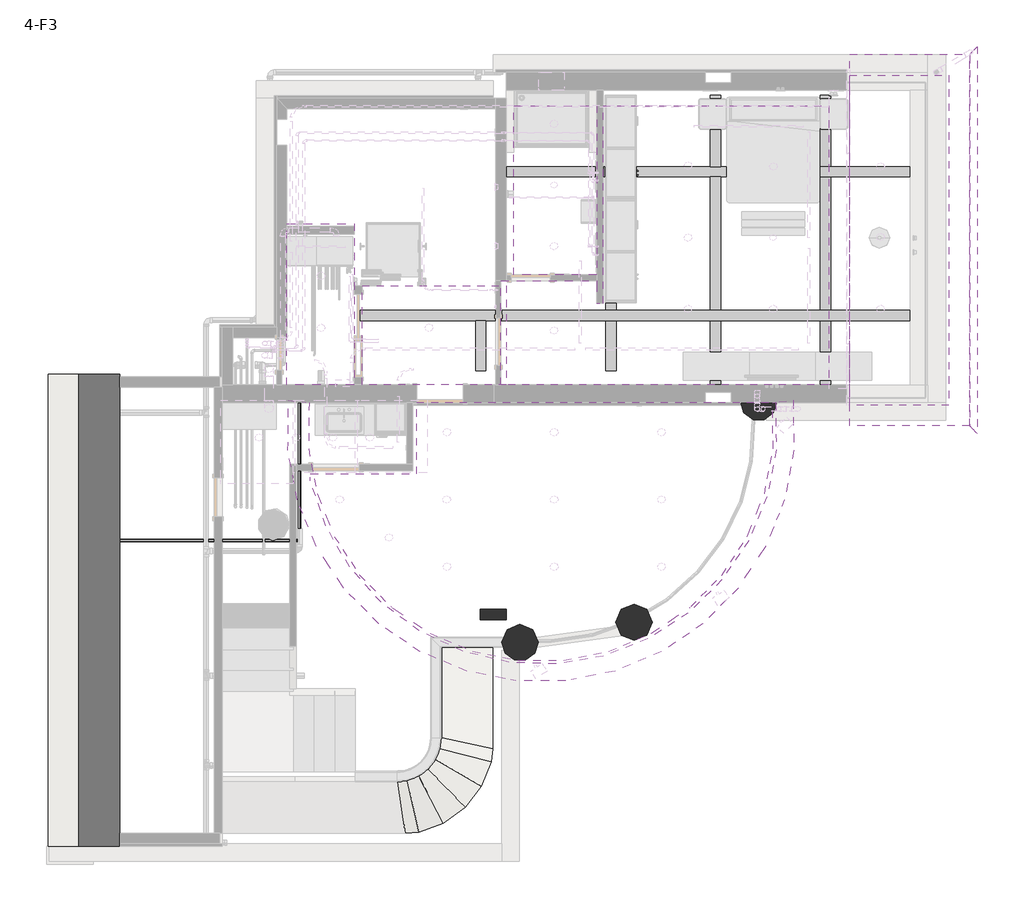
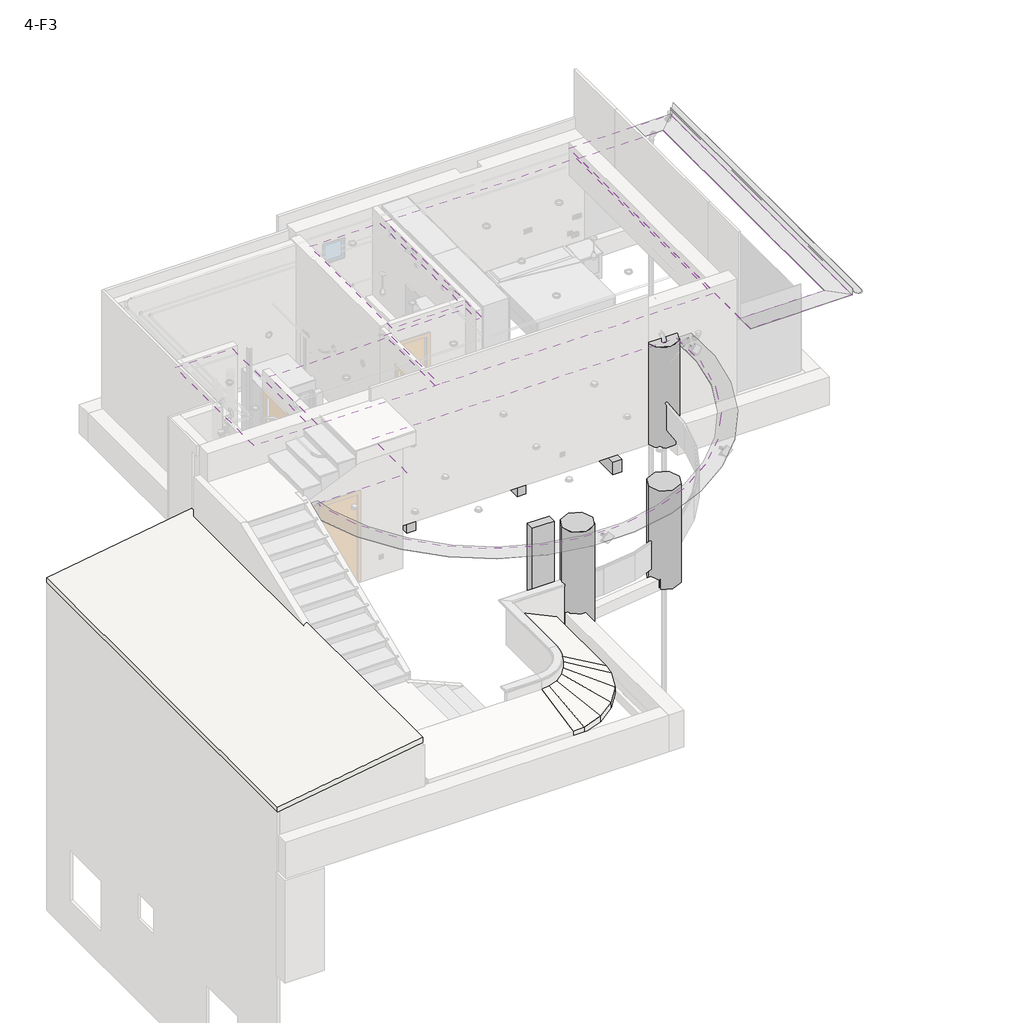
# One storey, part 3 of 11: 9 beams, 6 coverings, 4 columns, 4 roofs, 2 pipe segments.
"""IFC4 building model written with IfcOpenShell, lengths in millimetres."""

from ifc_helpers import new_model, si_unit, point, frame, frame_2d, origin, place, context, project, spatial, polyline, circle_curve, ellipse_curve, trimmed, segment, composite_curve, outline, extrude, faceted_brep, transform, mapped, element, save
from ifc_brep_helpers import plane_surface, cylinder_surface, revolved_surface, advanced_brep
from components import l51x51x3_2_2fe3ea8e, mt50x4_45_f827323b, mt50x4_45_f3ec78d8

model = new_model("IFC4")

# Units and contexts
model_context = context("Model", 3, world=origin())
ifc_project = project(units=[si_unit("LENGTHUNIT", "METRE", prefix="MILLI")], contexts=[model_context])

# Site, building, storey
site = spatial("IfcSite", under=ifc_project)
building = spatial("IfcBuilding", under=site)
storey = spatial("IfcBuildingStorey", under=building, Name="4-F3", Elevation=9900.0)

# Beams
placement = place(None, origin())
l51x51x3_2_shape = l51x51x3_2_2fe3ea8e(model_context)
element("IfcBeam", 1, ObjectType="M_L-Angle : L51X51X3.2", at=placement, inside=storey, context=model_context, shape_type="MappedRepresentation", body=[
    mapped(l51x51x3_2_shape, transform((-6771.4205017, 159.9675439, 9513.6), x_axis=(1.0, 0.0, 0.0), y_axis=(0.0, -1.0, 0.0), z_axis=(0.0, 0.0, -1.0))),
])
mt50x4_45_shape = mt50x4_45_f827323b(model_context)
element("IfcBeam", 2, ObjectType="M_MT-Structural Tee : MT50X4.45", at=placement, inside=storey, context=model_context, shape_type="MappedRepresentation", body=[
    mapped(mt50x4_45_shape, transform((-4615.6761339, 1570.7556118, 9573.35), x_axis=(0.0, -1.0, 0.0), y_axis=(0.0, 0.0, -1.0), z_axis=(1.0, 0.0, 0.0))),
])
mt50x4_45_2_shape = mt50x4_45_f3ec78d8(model_context)
element("IfcBeam", 3, ObjectType="M_MT-Structural Tee : MT50X4.45", at=placement, inside=storey, context=model_context, shape_type="MappedRepresentation", body=[
    mapped(mt50x4_45_2_shape, transform((-8928.2927447, 1570.7556118, 9573.35), x_axis=(0.0, -1.0, 0.0), y_axis=(0.0, 0.0, 1.0), z_axis=(-1.0, 0.0, 0.0))),
])
element("IfcBeam", 4, ObjectType="M_Concrete-Rectangular Beam : 200 x 300mm", at=placement, inside=storey, context=model_context, shape_type="Brep", body=[
    faceted_brep([(-622.6765921, 7185.2358549, 9450.0), (-622.6765921, 7385.2358549, 9450.0), (-622.6765921, 7385.2358549, 9150.0), (-622.6765921, 7185.2358549, 9150.0), (7235.5234079, 7185.2358549, 9450.0), (7235.5234079, 7185.2358549, 9150.0), (7235.5234079, 7385.2358549, 9150.0), (7235.5234079, 7385.2358549, 9450.0), (1292.3848417, 7185.2358549, 9450.0), (1492.3848417, 7185.2358549, 9450.0), (3312.3848417, 7185.2358549, 9450.0), (3512.3848417, 7185.2358549, 9450.0), (5432.3848417, 7185.2358549, 9450.0), (5632.3848417, 7185.2358549, 9450.0), (5632.3848417, 7385.2358549, 9450.0), (5432.3848417, 7385.2358549, 9450.0), (3512.3848417, 7385.2358549, 9450.0), (3312.3848417, 7385.2358549, 9450.0), (1492.3848417, 7385.2358549, 9450.0), (1292.3848417, 7385.2358549, 9450.0), (5632.3848417, 7385.2358549, 9150.0), (5432.3848417, 7385.2358549, 9150.0), (3512.3848417, 7385.2358549, 9150.0), (3312.3848417, 7385.2358549, 9150.0), (1492.3848417, 7385.2358549, 9150.0), (1292.3848417, 7385.2358549, 9150.0), (5632.3848417, 7185.2358549, 9150.0), (5432.3848417, 7185.2358549, 9150.0), (3512.3848417, 7185.2358549, 9150.0), (3312.3848417, 7185.2358549, 9150.0), (1492.3848417, 7185.2358549, 9150.0), (1292.3848417, 7185.2358549, 9150.0)], [[[0, 1, 2, 3]], [[4, 5, 6, 7]], [[1, 0, 8, 9, 10, 11, 12, 13, 4, 7, 14, 15, 16, 17, 18, 19]], [[2, 1, 19, 18, 17, 16, 15, 14, 7, 6, 20, 21, 22, 23, 24, 25]], [[3, 2, 25, 24, 23, 22, 21, 20, 6, 5, 26, 27, 28, 29, 30, 31]], [[0, 3, 31, 30, 29, 28, 27, 26, 5, 4, 13, 12, 11, 10, 9, 8]]]),
])
element("IfcBeam", 5, ObjectType="M_Concrete-Rectangular Beam : 200 x 300mm", at=placement, inside=storey, context=model_context, shape_type="Brep", body=[
    faceted_brep([(-3444.4765921, 4410.6486583, 9450.0), (-3444.4765921, 4610.6486583, 9450.0), (-3444.4765921, 4610.6486583, 9150.0), (-3444.4765921, 4410.6486583, 9150.0), (7235.5234079, 4410.6486583, 9450.0), (7235.5234079, 4410.6486583, 9150.0), (7235.5234079, 4610.6486583, 9150.0), (7235.5234079, 4610.6486583, 9450.0), (-1217.6151583, 4410.6486583, 9450.0), (-1017.6151583, 4410.6486583, 9450.0), (1292.3848417, 4410.6486583, 9450.0), (1492.3848417, 4410.6486583, 9450.0), (3312.3848417, 4410.6486583, 9450.0), (3512.3848417, 4410.6486583, 9450.0), (5432.3848417, 4410.6486583, 9450.0), (5632.3848417, 4410.6486583, 9450.0), (5632.3848417, 4610.6486583, 9450.0), (5432.3848417, 4610.6486583, 9450.0), (3512.3848417, 4610.6486583, 9450.0), (3312.3848417, 4610.6486583, 9450.0), (1492.3848417, 4610.6486583, 9450.0), (1292.3848417, 4610.6486583, 9450.0), (5632.3848417, 4610.6486583, 9150.0), (5432.3848417, 4610.6486583, 9150.0), (3512.3848417, 4610.6486583, 9150.0), (3312.3848417, 4610.6486583, 9150.0), (1492.3848417, 4610.6486583, 9150.0), (1292.3848417, 4610.6486583, 9150.0), (5632.3848417, 4410.6486583, 9150.0), (5432.3848417, 4410.6486583, 9150.0), (3512.3848417, 4410.6486583, 9150.0), (3312.3848417, 4410.6486583, 9150.0), (1492.3848417, 4410.6486583, 9150.0), (1292.3848417, 4410.6486583, 9150.0), (-1017.6151583, 4410.6486583, 9150.0), (-1217.6151583, 4410.6486583, 9150.0)], [[[0, 1, 2, 3]], [[4, 5, 6, 7]], [[1, 0, 8, 9, 10, 11, 12, 13, 14, 15, 4, 7, 16, 17, 18, 19, 20, 21]], [[2, 1, 21, 20, 19, 18, 17, 16, 7, 6, 22, 23, 24, 25, 26, 27]], [[3, 2, 27, 26, 25, 24, 23, 22, 6, 5, 28, 29, 30, 31, 32, 33, 34, 35]], [[0, 3, 35, 34, 33, 32, 31, 30, 29, 28, 5, 4, 15, 14, 13, 12, 11, 10, 9, 8]]]),
])
element("IfcBeam", 6, ObjectType="M_Concrete-Rectangular Beam : 200 x 300mm", at=placement, inside=storey, context=model_context, shape_type="SweptSolid", body=[
    extrude(outline(polyline([(1292.3848417, 8761.6620874), (1492.3848417, 8761.6620874), (1492.3848417, 7385.2358549), (1292.3848417, 7385.2358549), (1292.3848417, 8761.6620874)])), frame((0.0, 0.0, 9150.0), z_axis=(0.0, 0.0, 1.0), x_axis=(1.0, 0.0, 0.0)), (0.0, 0.0, 1.0), 300.0),
    extrude(outline(polyline([(1492.3848417, 3442.6176449), (1292.3848417, 3442.6176449), (1292.3848417, 4410.6486583), (1492.3848417, 4410.6486583), (1492.3848417, 3442.6176449)])), frame((0.0, 0.0, 9150.0), z_axis=(0.0, 0.0, 1.0), x_axis=(1.0, 0.0, 0.0)), (0.0, 0.0, 1.0), 300.0),
    extrude(outline(polyline([(1492.3848417, 4610.6486583), (1292.3848417, 4610.6486583), (1292.3848417, 7185.2358549), (1492.3848417, 7185.2358549), (1492.3848417, 4610.6486583)])), frame((0.0, 0.0, 9150.0), z_axis=(0.0, 0.0, 1.0), x_axis=(1.0, 0.0, 0.0)), (0.0, 0.0, 1.0), 300.0),
])
element("IfcBeam", 7, ObjectType="M_Concrete-Rectangular Beam : 200 x 300mm", at=placement, inside=storey, context=model_context, shape_type="SweptSolid", body=[
    extrude(outline(polyline([(3312.3848417, 8761.6620874), (3512.3848417, 8761.6620874), (3512.3848417, 7385.2358549), (3312.3848417, 7385.2358549), (3312.3848417, 8761.6620874)])), frame((0.0, 0.0, 9150.0), z_axis=(0.0, 0.0, 1.0), x_axis=(1.0, 0.0, 0.0)), (0.0, 0.0, 1.0), 300.0),
    extrude(outline(polyline([(3512.3848417, 3161.6620874), (3312.3848417, 3161.6620874), (3312.3848417, 4410.6486583), (3512.3848417, 4410.6486583), (3512.3848417, 3161.6620874)])), frame((0.0, 0.0, 9150.0), z_axis=(0.0, 0.0, 1.0), x_axis=(1.0, 0.0, 0.0)), (0.0, 0.0, 1.0), 300.0),
    extrude(outline(polyline([(3512.3848417, 4610.6486583), (3312.3848417, 4610.6486583), (3312.3848417, 7185.2358549), (3512.3848417, 7185.2358549), (3512.3848417, 4610.6486583)])), frame((0.0, 0.0, 9150.0), z_axis=(0.0, 0.0, 1.0), x_axis=(1.0, 0.0, 0.0)), (0.0, 0.0, 1.0), 300.0),
])
element("IfcBeam", 8, ObjectType="M_Concrete-Rectangular Beam : 200 x 300mm", at=placement, inside=storey, context=model_context, shape_type="SweptSolid", body=[
    extrude(outline(polyline([(5432.3848417, 8761.6620874), (5632.3848417, 8761.6620874), (5632.3848417, 7385.2358549), (5432.3848417, 7385.2358549), (5432.3848417, 8761.6620874)])), frame((0.0, 0.0, 9150.0), z_axis=(0.0, 0.0, 1.0), x_axis=(1.0, 0.0, 0.0)), (0.0, 0.0, 1.0), 300.0),
    extrude(outline(polyline([(5632.3848417, 3170.7214801), (5432.3848417, 3170.7214801), (5432.3848417, 4410.6486583), (5632.3848417, 4410.6486583), (5632.3848417, 3170.7214801)])), frame((0.0, 0.0, 9150.0), z_axis=(0.0, 0.0, 1.0), x_axis=(1.0, 0.0, 0.0)), (0.0, 0.0, 1.0), 300.0),
    extrude(outline(polyline([(5432.3848417, 7185.2358549), (5632.3848417, 7185.2358549), (5632.3848417, 4610.6486583), (5432.3848417, 4610.6486583), (5432.3848417, 7185.2358549)])), frame((0.0, 0.0, 9150.0), z_axis=(0.0, 0.0, 1.0), x_axis=(1.0, 0.0, 0.0)), (0.0, 0.0, 1.0), 300.0),
])
element("IfcBeam", 9, ObjectType="M_Concrete-Rectangular Beam : 200 x 300mm", at=placement, inside=storey, context=model_context, shape_type="SweptSolid", body=[
    extrude(outline(polyline([(-1017.6151583, 3442.6176449), (-1217.6151583, 3442.6176449), (-1217.6151583, 4410.6486583), (-1017.6151583, 4410.6486583), (-1017.6151583, 3442.6176449)])), frame((0.0, 0.0, 9150.0), z_axis=(0.0, 0.0, 1.0), x_axis=(1.0, 0.0, 0.0)), (0.0, 0.0, 1.0), 300.0),
])

# Columns
element("IfcColumn", 10, ObjectType="M_Concrete-Rectangular-Column : 200 x500mm", at=placement, inside=storey, context=model_context, shape_type="SweptSolid", body=[
    extrude(outline(polyline([(-1127.3482991, -1357.1632352), (-1127.3482991, -1157.1632352), (-627.3482991, -1157.1632352), (-627.3482991, -1357.1632352), (-1127.3482991, -1357.1632352)])), frame((0.0, 0.0, 9950.0), z_axis=(0.0, 0.0, 1.0), x_axis=(1.0, 0.0, 0.0)), (0.0, 0.0, 1.0), 2200.0),
])
element("IfcColumn", 11, ObjectType="M_Concrete-Round-Column : 700mm", at=placement, inside=storey, context=model_context, shape_type="AdvancedBrep", body=[
    advanced_brep(
    [(2191.661449, -1407.3470383, 9900.0), (1607.691221, -1667.6505773, 9900.0), (2191.0757881, -1387.1079771, 9900.0), (2191.661449, -1407.3470383, 12274.1743241), (1491.661449, -1407.3470383, 12274.1743241), (1491.661449, -1407.3470383, 9950.0), (1607.691221, -1667.6505773, 9950.0), (2191.0757881, -1387.1079771, 9950.0)],
    [
        (0, 1, circle_curve(frame((1841.661449, -1407.3470383, 9900.0), z_axis=(0.0, 0.0, -1.0), x_axis=(-1.0, 0.0, 0.0)), 350.0)),
        (1, 2, circle_curve(frame((41.3341283, 2336.4094323, 9900.0), z_axis=(0.0, 0.0, 1.0), x_axis=(1.0, 0.0, 0.0)), 4299.531498)),
        (2, 0, circle_curve(frame((1841.661449, -1407.3470383, 9900.0), z_axis=(0.0, 0.0, -1.0), x_axis=(-1.0, 0.0, 0.0)), 350.0)),
        (3, 4, circle_curve(frame((1841.661449, -1407.3470383, 12274.1743241), z_axis=(0.0, 0.0, 1.0), x_axis=(-1.0, 0.0, 0.0)), 350.0)),
        (4, 3, circle_curve(frame((1841.661449, -1407.3470383, 12274.1743241), z_axis=(0.0, 0.0, 1.0), x_axis=(-1.0, 0.0, 0.0)), 350.0)),
        (4, 5),
        (5, 6, circle_curve(frame((1841.661449, -1407.3470383, 9950.0), z_axis=(0.0, 0.0, 1.0), x_axis=(-1.0, 0.0, 0.0)), 350.0)),
        (6, 1),
        (0, 3),
        (2, 7),
        (7, 5, circle_curve(frame((1841.661449, -1407.3470383, 9950.0), z_axis=(0.0, 0.0, 1.0), x_axis=(-1.0, 0.0, 0.0)), 350.0)),
        (7, 6, circle_curve(frame((41.3341283, 2336.4094323, 9950.0), z_axis=(0.0, 0.0, -1.0), x_axis=(1.0, 0.0, 0.0)), 4299.531498)),
    ],
    [
        plane_surface(frame((1491.661449, -1407.3470383, 9900.0), z_axis=(0.0, 0.0, -1.0), x_axis=(0.0, 1.0, 0.0))),
        plane_surface(frame((1491.661449, -1407.3470383, 12274.1743241), z_axis=(0.0, 0.0, 1.0), x_axis=(0.0, -1.0, 0.0))),
        cylinder_surface(frame((1841.661449, -1407.3470383, 9900.0), z_axis=(0.0, 0.0, 1.0), x_axis=(-1.0, 0.0, 0.0)), 350.0),
        plane_surface(frame((-6107.4765921, 4642.9313171, 9950.0), z_axis=(0.0, 0.0, -1.0), x_axis=(0.0, -1.0, 0.0))),
        revolved_surface(polyline([(4340.8656263, 2336.4094323, 9900.0), (4340.8656263, 2336.4094323, 9950.0)]), (41.3341283, 2336.4094323, 9950.0), (0.0, 0.0, -1.0)),
    ],
    [
        (0, [[1, 2, 3]]),
        (1, [[4, 5]]),
        (2, [[-5, 6, 7, 8, -1, 9]]),
        (2, [[-4, -9, -3, 10, 11, -6]]),
        (3, [[12, -7, -11]]),
        (4, [[-12, -10, -2, -8]]),
    ],
),
])
element("IfcColumn", 12, ObjectType="M_Concrete-Round-Column : 700mm", at=placement, inside=storey, context=model_context, shape_type="AdvancedBrep", body=[
    advanced_brep(
    [(-53.5545328, -1962.0748638, 9900.0), (-627.4765921, -2024.64125, 9900.0), (-627.4765921, -1910.7853269, 9900.0), (-11.9654842, -1796.5977201, 12295.1854885), (-711.9654842, -1796.5977201, 12295.1854885), (-711.9654842, -1796.5977201, 9950.0), (-627.4765921, -2024.64125, 9950.0), (-53.5545328, -1962.0748638, 9950.0), (-11.9654842, -1796.5977201, 9950.0), (-627.4765921, -1910.7853269, 9950.0)],
    [
        (0, 1, circle_curve(frame((-361.9654842, -1796.5977201, 9900.0), z_axis=(0.0, 0.0, -1.0), x_axis=(1.0, 0.0, 0.0)), 350.0)),
        (1, 2),
        (2, 0, circle_curve(frame((41.3341283, 2336.4094323, 9900.0), z_axis=(0.0, 0.0, 1.0), x_axis=(1.0, 0.0, 0.0)), 4299.531498)),
        (3, 4, circle_curve(frame((-361.9654842, -1796.5977201, 12295.1854885), z_axis=(0.0, 0.0, 1.0), x_axis=(1.0, 0.0, 0.0)), 350.0)),
        (4, 3, circle_curve(frame((-361.9654842, -1796.5977201, 12295.1854885), z_axis=(0.0, 0.0, 1.0), x_axis=(1.0, 0.0, 0.0)), 350.0)),
        (4, 5),
        (5, 6, circle_curve(frame((-361.9654842, -1796.5977201, 9950.0), z_axis=(0.0, 0.0, 1.0), x_axis=(1.0, 0.0, 0.0)), 350.0)),
        (6, 1),
        (0, 7),
        (7, 8, circle_curve(frame((-361.9654842, -1796.5977201, 9950.0), z_axis=(0.0, 0.0, 1.0), x_axis=(1.0, 0.0, 0.0)), 350.0)),
        (8, 3),
        (8, 5, circle_curve(frame((-361.9654842, -1796.5977201, 9950.0), z_axis=(0.0, 0.0, 1.0), x_axis=(1.0, 0.0, 0.0)), 350.0)),
        (7, 9, circle_curve(frame((41.3341283, 2336.4094323, 9950.0), z_axis=(0.0, 0.0, -1.0), x_axis=(1.0, 0.0, 0.0)), 4299.531498)),
        (9, 6),
        (9, 2),
    ],
    [
        plane_surface(frame((-11.9654842, -1796.5977201, 9900.0), z_axis=(0.0, 0.0, -1.0), x_axis=(0.0, 1.0, 0.0))),
        plane_surface(frame((-11.9654842, -1796.5977201, 12295.1854885), z_axis=(0.0, 0.0, 1.0), x_axis=(0.0, -1.0, 0.0))),
        cylinder_surface(frame((-361.9654842, -1796.5977201, 9900.0), z_axis=(0.0, 0.0, 1.0), x_axis=(1.0, 0.0, 0.0)), 350.0),
        plane_surface(frame((-6107.4765921, 4642.9313171, 9950.0), z_axis=(0.0, 0.0, -1.0), x_axis=(0.0, -1.0, 0.0))),
        plane_surface(frame((-627.4765921, -1910.7853269, 9650.0), z_axis=(-1.0, 0.0, 0.0), x_axis=(0.0, 0.0, 1.0))),
        revolved_surface(polyline([(4340.8656263, 2336.4094323, 9900.0), (4340.8656263, 2336.4094323, 9950.0)]), (41.3341283, 2336.4094323, 9950.0), (0.0, 0.0, -1.0)),
    ],
    [
        (0, [[1, 2, 3]]),
        (1, [[4, 5]]),
        (2, [[-5, 6, 7, 8, -1, 9, 10, 11]]),
        (2, [[-4, -11, 12, -6]]),
        (3, [[13, 14, -7, -12, -10]]),
        (4, [[-14, 15, -2, -8]]),
        (5, [[-13, -9, -3, -15]]),
    ],
),
])
element("IfcColumn", 13, ObjectType="half circle : half circle", at=placement, inside=storey, context=model_context, shape_type="SweptSolid", body=[
    extrude(outline(composite_curve([segment(trimmed(circle_curve(frame_2d((4244.5316629, 2836.4863231)), 350.0), [point((4594.5316629, 2836.4863231))], [point((3894.5316629, 2836.4863231))], False, "CARTESIAN"), True, "CONTINUOUS"), segment(polyline([(3894.5316629, 2836.4863231), (4594.5316629, 2836.4863231)]), True, "CONTINUOUS")], self_intersect=False)), frame((0.0, 0.0, 9900.0), z_axis=(0.0, 0.0, 1.0), x_axis=(1.0, 0.0, 0.0)), (0.0, 0.0, 1.0), 2419.8197025),
])

# Coverings
element("IfcCovering", 14, ObjectType="Plain", at=placement, inside=storey, context=model_context, shape_type="SweptSolid", body=[
    extrude(outline(polyline([(7916.946068, 2780.5529852), (5997.8774898, 2780.5529852), (5997.8774898, 9151.6323432), (7916.946068, 9151.6323432), (7916.946068, 2780.5529852)]), holes=[composite_curve([segment(trimmed(circle_curve(frame_2d((6599.2004488, 7387.4708382)), 75.0), [point((6524.2004488, 7387.4708382))], [point((6674.2004488, 7387.4708382))], True, "CARTESIAN"), True, "CONTINUOUS"), segment(trimmed(circle_curve(frame_2d((6599.2004488, 7387.4708382)), 75.0), [point((6674.2004488, 7387.4708382))], [point((6524.2004488, 7387.4708382))], True, "CARTESIAN"), True, "CONTINUOUS")], self_intersect=False), composite_curve([segment(trimmed(circle_curve(frame_2d((6599.2004488, 4639.8354313)), 75.0), [point((6524.2004488, 4639.8354313))], [point((6674.2004488, 4639.8354313))], True, "CARTESIAN"), True, "CONTINUOUS"), segment(trimmed(circle_curve(frame_2d((6599.2004488, 4639.8354313)), 75.0), [point((6674.2004488, 4639.8354313))], [point((6524.2004488, 4639.8354313))], True, "CARTESIAN"), True, "CONTINUOUS")], self_intersect=False), composite_curve([segment(trimmed(circle_curve(frame_2d((6599.2004488, 6027.4708382)), 75.0), [point((6524.2004488, 6027.4708382))], [point((6674.2004488, 6027.4708382))], True, "CARTESIAN"), True, "CONTINUOUS"), segment(trimmed(circle_curve(frame_2d((6599.2004488, 6027.4708382)), 75.0), [point((6674.2004488, 6027.4708382))], [point((6524.2004488, 6027.4708382))], True, "CARTESIAN"), True, "CONTINUOUS")], self_intersect=False)]), frame((0.0, 0.0, 12200.0), z_axis=(0.0, 0.0, 1.0), x_axis=(1.0, 0.0, 0.0)), (0.0, 0.0, 1.0), 12.0),
])
element("IfcCovering", 15, ObjectType="Plain", at=placement, inside=storey, context=model_context, shape_type="SweptSolid", body=[
    extrude(outline(polyline([(1122.5234079, 5299.8354313), (-477.4765921, 5299.8354313), (-477.4765921, 8561.6620874), (1122.5234079, 8561.6620874), (1122.5234079, 5299.8354313)]), holes=[composite_curve([segment(trimmed(circle_curve(frame_2d((297.5234079, 8211.6620874)), 75.0), [point((222.5234079, 8211.6620874))], [point((372.5234079, 8211.6620874))], True, "CARTESIAN"), True, "CONTINUOUS"), segment(trimmed(circle_curve(frame_2d((297.5234079, 8211.6620874)), 75.0), [point((372.5234079, 8211.6620874))], [point((222.5234079, 8211.6620874))], True, "CARTESIAN"), True, "CONTINUOUS")], self_intersect=False), composite_curve([segment(trimmed(circle_curve(frame_2d((297.5234079, 5849.8354313)), 75.0), [point((222.5234079, 5849.8354313))], [point((372.5234079, 5849.8354313))], True, "CARTESIAN"), True, "CONTINUOUS"), segment(trimmed(circle_curve(frame_2d((297.5234079, 5849.8354313)), 75.0), [point((372.5234079, 5849.8354313))], [point((222.5234079, 5849.8354313))], True, "CARTESIAN"), True, "CONTINUOUS")], self_intersect=False)]), frame((0.0, 0.0, 12700.0), z_axis=(0.0, 0.0, 1.0), x_axis=(1.0, 0.0, 0.0)), (0.0, 0.0, 1.0), 12.0),
])
element("IfcCovering", 16, ObjectType="Plain", at=placement, inside=storey, context=model_context, shape_type="SweptSolid", body=[
    extrude(outline(polyline([(-3407.4765921, 5084.4560655), (-627.4765921, 5084.4560655), (-627.4765921, 3170.6486583), (-3407.4765921, 3170.6486583), (-3407.4765921, 5084.4560655)]), holes=[composite_curve([segment(trimmed(circle_curve(frame_2d((-2117.4765921, 4275.4711943)), 75.0), [point((-2192.4765921, 4275.4711943))], [point((-2042.4765921, 4275.4711943))], True, "CARTESIAN"), True, "CONTINUOUS"), segment(trimmed(circle_curve(frame_2d((-2117.4765921, 4275.4711943)), 75.0), [point((-2042.4765921, 4275.4711943))], [point((-2192.4765921, 4275.4711943))], True, "CARTESIAN"), True, "CONTINUOUS")], self_intersect=False)]), frame((0.0, 0.0, 12700.0), z_axis=(0.0, 0.0, 1.0), x_axis=(1.0, 0.0, 0.0)), (0.0, 0.0, 1.0), 12.0),
])
element("IfcCovering", 17, ObjectType="Plain", at=placement, inside=storey, context=model_context, shape_type="SweptSolid", body=[
    extrude(outline(polyline([(-4857.4765921, 6284.4560655), (-3557.4765921, 6284.4560655), (-3557.4765921, 3170.6486583), (-4857.4765921, 3170.6486583), (-4857.4765921, 6284.4560655)]), holes=[composite_curve([segment(trimmed(circle_curve(frame_2d((-4197.4765921, 4272.4762372)), 75.0), [point((-4272.4765921, 4272.4762372))], [point((-4122.4765921, 4272.4762372))], True, "CARTESIAN"), True, "CONTINUOUS"), segment(trimmed(circle_curve(frame_2d((-4197.4765921, 4272.4762372)), 75.0), [point((-4122.4765921, 4272.4762372))], [point((-4272.4765921, 4272.4762372))], True, "CARTESIAN"), True, "CONTINUOUS")], self_intersect=False), composite_curve([segment(trimmed(circle_curve(frame_2d((-4197.4765921, 5278.4661513)), 75.0), [point((-4122.4765921, 5278.4661513))], [point((-4272.4765921, 5278.4661513))], True, "CARTESIAN"), True, "CONTINUOUS"), segment(trimmed(circle_curve(frame_2d((-4197.4765921, 5278.4661513)), 75.0), [point((-4272.4765921, 5278.4661513))], [point((-4122.4765921, 5278.4661513))], True, "CARTESIAN"), True, "CONTINUOUS")], self_intersect=False)]), frame((0.0, 0.0, 12700.0), z_axis=(0.0, 0.0, 1.0), x_axis=(1.0, 0.0, 0.0)), (0.0, 0.0, 1.0), 12.0),
])
element("IfcCovering", 18, ObjectType="Plain", at=placement, inside=storey, context=model_context, shape_type="SweptSolid", body=[
    extrude(outline(composite_curve([segment(polyline([(-2354.3144505, 1456.4863231), (-2354.3144505, 2836.4455207), (4573.52257, 2836.4455207)]), True, "CONTINUOUS"), segment(trimmed(circle_curve(frame_2d((41.375057, 2336.428223)), 4559.6467383), [point((4573.52257, 2836.4455207))], [point((-4404.5759142, 1324.5496041))], False, "CARTESIAN"), True, "CONTINUOUS"), segment(polyline([(-4404.5759142, 1324.5496041), (-4404.5759142, 1456.4863231), (-2354.3144505, 1456.4863231)]), True, "CONTINUOUS")], self_intersect=False), holes=[composite_curve([segment(trimmed(circle_curve(frame_2d((299.0607507, 961.8997367)), 55.0), [point((354.0607507, 961.8997367))], [point((244.0607507, 961.8997367))], True, "CARTESIAN"), True, "CONTINUOUS"), segment(trimmed(circle_curve(frame_2d((299.0607507, 961.8997367)), 55.0), [point((244.0607507, 961.8997367))], [point((354.0607507, 961.8997367))], True, "CARTESIAN"), True, "CONTINUOUS")], self_intersect=False), composite_curve([segment(trimmed(circle_curve(frame_2d((2368.5911261, 961.8997367)), 55.0), [point((2423.5911261, 961.8997367))], [point((2313.5911261, 961.8997367))], True, "CARTESIAN"), True, "CONTINUOUS"), segment(trimmed(circle_curve(frame_2d((2368.5911261, 961.8997367)), 55.0), [point((2313.5911261, 961.8997367))], [point((2423.5911261, 961.8997367))], True, "CARTESIAN"), True, "CONTINUOUS")], self_intersect=False), composite_curve([segment(trimmed(circle_curve(frame_2d((-3840.0, 961.8997367)), 55.0), [point((-3785.0, 961.8997367))], [point((-3895.0, 961.8997367))], True, "CARTESIAN"), True, "CONTINUOUS"), segment(trimmed(circle_curve(frame_2d((-3840.0, 961.8997367)), 55.0), [point((-3895.0, 961.8997367))], [point((-3785.0, 961.8997367))], True, "CARTESIAN"), True, "CONTINUOUS")], self_intersect=False)]), frame((0.0, 0.0, 12200.0), z_axis=(0.0, 0.0, 1.0), x_axis=(1.0, 0.0, 0.0)), (0.0, 0.0, 1.0), 12.0),
])
element("IfcCovering", 19, ObjectType="Plain", at=placement, inside=storey, context=model_context, shape_type="SweptSolid", body=[
    extrude(outline(polyline([(5592.5234079, 8561.6620874), (5592.5234079, 3170.6486583), (-727.4765921, 3170.6486583), (-727.4765921, 5179.8354313), (1122.5234079, 5179.8354313), (1122.5234079, 4751.6620874), (1242.5234079, 4751.6620874), (1242.5234079, 8561.6620874), (5592.5234079, 8561.6620874)]), holes=[composite_curve([segment(trimmed(circle_curve(frame_2d((2882.5234079, 7401.6620874)), 75.0), [point((2807.5234079, 7401.6620874))], [point((2957.5234079, 7401.6620874))], True, "CARTESIAN"), True, "CONTINUOUS"), segment(trimmed(circle_curve(frame_2d((2882.5234079, 7401.6620874)), 75.0), [point((2957.5234079, 7401.6620874))], [point((2807.5234079, 7401.6620874))], True, "CARTESIAN"), True, "CONTINUOUS")], self_intersect=False), composite_curve([segment(trimmed(circle_curve(frame_2d((2882.5234079, 4639.8354313)), 75.0), [point((2807.5234079, 4639.8354313))], [point((2957.5234079, 4639.8354313))], True, "CARTESIAN"), True, "CONTINUOUS"), segment(trimmed(circle_curve(frame_2d((2882.5234079, 4639.8354313)), 75.0), [point((2957.5234079, 4639.8354313))], [point((2807.5234079, 4639.8354313))], True, "CARTESIAN"), True, "CONTINUOUS")], self_intersect=False), composite_curve([segment(trimmed(circle_curve(frame_2d((4527.8774898, 7387.4708382)), 75.0), [point((4452.8774898, 7387.4708382))], [point((4602.8774898, 7387.4708382))], True, "CARTESIAN"), True, "CONTINUOUS"), segment(trimmed(circle_curve(frame_2d((4527.8774898, 7387.4708382)), 75.0), [point((4602.8774898, 7387.4708382))], [point((4452.8774898, 7387.4708382))], True, "CARTESIAN"), True, "CONTINUOUS")], self_intersect=False), composite_curve([segment(trimmed(circle_curve(frame_2d((2882.5234079, 6013.8093331)), 75.0), [point((2807.5234079, 6013.8093331))], [point((2957.5234079, 6013.8093331))], True, "CARTESIAN"), True, "CONTINUOUS"), segment(trimmed(circle_curve(frame_2d((2882.5234079, 6013.8093331)), 75.0), [point((2957.5234079, 6013.8093331))], [point((2807.5234079, 6013.8093331))], True, "CARTESIAN"), True, "CONTINUOUS")], self_intersect=False), composite_curve([segment(trimmed(circle_curve(frame_2d((4525.2004489, 4640.1478281)), 75.0), [point((4450.2004489, 4640.1478281))], [point((4600.2004489, 4640.1478281))], True, "CARTESIAN"), True, "CONTINUOUS"), segment(trimmed(circle_curve(frame_2d((4525.2004489, 4640.1478281)), 75.0), [point((4600.2004489, 4640.1478281))], [point((4450.2004489, 4640.1478281))], True, "CARTESIAN"), True, "CONTINUOUS")], self_intersect=False), composite_curve([segment(trimmed(circle_curve(frame_2d((297.5234079, 4223.1608772)), 75.0), [point((222.5234079, 4223.1608772))], [point((372.5234079, 4223.1608772))], True, "CARTESIAN"), True, "CONTINUOUS"), segment(trimmed(circle_curve(frame_2d((297.5234079, 4223.1608772)), 75.0), [point((372.5234079, 4223.1608772))], [point((222.5234079, 4223.1608772))], True, "CARTESIAN"), True, "CONTINUOUS")], self_intersect=False)]), frame((0.0, 0.0, 12700.0), z_axis=(0.0, 0.0, 1.0), x_axis=(1.0, 0.0, 0.0)), (0.0, 0.0, 1.0), 12.0),
])

# Pipe segments
element("IfcPipeSegment", 20, ObjectType="Gutter 1", at=placement, inside=storey, context=model_context, shape_type="AdvancedBrep", body=[
    advanced_brep(
    [(8316.946068, 2380.5529852, 12190.0), (8326.946068, 2370.5529852, 12190.0), (8326.946068, 2370.5529852, 12292.5834261), (8465.4307603, 2232.0682929, 12345.0), (8455.1916212, 2242.307432, 12345.0), (8328.7005148, 2368.7985384, 12345.0), (8316.946068, 2380.5529852, 12345.0), (8316.946068, 9551.6323432, 12190.0), (8316.946068, 9551.6323432, 12345.0), (8328.7005148, 9563.38679, 12345.0), (8455.1916212, 9689.8778964, 12345.0), (8465.4307603, 9700.1170355, 12345.0), (8326.946068, 9561.6323432, 12292.5834261), (8326.946068, 9561.6323432, 12190.0)],
    [
        (0, 1),
        (1, 2),
        (2, 3, ellipse_curve(frame((8391.946068, 2305.5529852, 12330.0), z_axis=(-0.7071067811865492, -0.7071067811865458, 0.0), x_axis=(0.7071067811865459, -0.7071067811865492, 0.0)), 106.0660172, 75.0)),
        (3, 4),
        (4, 5, ellipse_curve(frame((8391.946068, 2305.5529852, 12330.0), z_axis=(0.7071067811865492, 0.7071067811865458, 0.0), x_axis=(-0.7071067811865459, 0.7071067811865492, 0.0)), 91.9238816, 65.0)),
        (5, 6),
        (6, 0),
        (7, 8),
        (8, 9),
        (9, 10, ellipse_curve(frame((8391.946068, 9626.6323432, 12330.0), z_axis=(0.7071067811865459, -0.7071067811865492, 0.0), x_axis=(0.7071067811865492, 0.7071067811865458, 0.0)), 91.9238816, 65.0)),
        (10, 11),
        (11, 12, ellipse_curve(frame((8391.946068, 9626.6323432, 12330.0), z_axis=(-0.7071067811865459, 0.7071067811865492, 0.0), x_axis=(-0.7071067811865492, -0.7071067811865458, 0.0)), 106.0660172, 75.0)),
        (12, 13),
        (13, 7),
        (6, 8),
        (7, 0),
        (1, 13),
        (12, 2),
        (11, 3),
        (10, 4),
        (9, 5),
    ],
    [
        plane_surface(frame((8316.946068, 2380.5529852, 12200.0), z_axis=(-0.7071067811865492, -0.7071067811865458, 0.0), x_axis=(0.7071067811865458, -0.7071067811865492, 0.0))),
        plane_surface(frame((8316.946068, 9551.6323432, 12200.0), z_axis=(-0.7071067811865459, 0.7071067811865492, 0.0), x_axis=(-0.7071067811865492, -0.7071067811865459, 0.0))),
        plane_surface(frame((8316.946068, 2380.5529852, 12345.0), z_axis=(-1.0, 0.0, 0.0), x_axis=(0.0, 1.0, 0.0))),
        plane_surface(frame((8326.946068, 2370.5529852, 12190.0), z_axis=(1.0, 0.0, 0.0), x_axis=(0.0, 1.0, 0.0))),
        plane_surface(frame((8316.946068, 2380.5529852, 12190.0), z_axis=(0.0, 0.0, -1.0), x_axis=(0.0, 1.0, 0.0))),
        cylinder_surface(frame((8391.946068, 2380.5529852, 12330.0), z_axis=(0.0, -1.0, 0.0), x_axis=(1.0, 0.0, 0.0)), 75.0),
        plane_surface(frame((8465.4307603, 2232.0682929, 12345.0), z_axis=(0.0, 0.0, 1.0), x_axis=(0.0, 1.0, 0.0))),
        revolved_surface(polyline([(8456.946068, 9691.63234323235, 12330.0), (8456.946068, 2240.5529851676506, 12330.0)]), (8391.946068, 2380.5529852, 12330.0), (0.0, 1.0, 0.0)),
        plane_surface(frame((8328.7005148, 2368.7985384, 12345.0), z_axis=(0.0, 0.0, 1.0), x_axis=(0.0, 1.0, 0.0))),
    ],
    [
        (0, [[1, 2, 3, 4, 5, 6, 7]]),
        (1, [[8, 9, 10, 11, 12, 13, 14]]),
        (2, [[-7, 15, -8, 16]]),
        (3, [[-2, 17, -13, 18]]),
        (4, [[-1, -16, -14, -17]]),
        (5, [[-3, -18, -12, 19]]),
        (6, [[-4, -19, -11, 20]]),
        (7, [[-5, -20, -10, 21]]),
        (8, [[-6, -21, -9, -15]]),
    ],
),
])
element("IfcPipeSegment", 21, ObjectType="Gutter 2", at=placement, inside=storey, context=model_context, shape_type="SolidModel", body=[
    faceted_brep([(6000.0, 9551.6323432, 12190.0), (6000.0, 9151.6323432, 12190.0), (6000.0, 9151.6323432, 12200.0), (6000.0, 9551.6323432, 12200.0), (8316.946068, 9551.6323432, 12200.0), (8316.946068, 9551.6323432, 12190.0), (7916.946068, 9151.6323432, 12200.0), (7916.946068, 9151.6323432, 12190.0), (6000.0, 2380.5529852, 12190.0), (6000.0, 2380.5529852, 12200.0), (6000.0, 2780.5529852, 12200.0), (6000.0, 2780.5529852, 12190.0), (8316.946068, 2380.5529852, 12190.0), (8316.946068, 2380.5529852, 12200.0), (7916.946068, 2780.5529852, 12200.0), (7916.946068, 2780.5529852, 12190.0)], [[[0, 1, 2, 3]], [[4, 5, 0, 3]], [[6, 4, 3, 2]], [[7, 6, 2, 1]], [[5, 7, 1, 0]], [[8, 9, 10, 11]], [[9, 8, 12, 13]], [[10, 9, 13, 14]], [[11, 10, 14, 15]], [[8, 11, 15, 12]], [[13, 12, 5, 4]], [[14, 13, 4, 6]], [[15, 14, 6, 7]], [[12, 15, 7, 5]]]),
    advanced_brep(
    [(-4828.6939322, 2873.9839881, 12190.0), (-4828.6939322, 2873.9839881, 12200.0), (-4431.1086164, 2830.098721, 12200.0), (-4431.1086164, 2830.098721, 12190.0), (4911.4440462, 2873.9839881, 12190.0), (4513.8587304, 2830.098721, 12190.0), (4513.8587304, 2830.098721, 12200.0), (4911.4440462, 2873.9839881, 12200.0)],
    [
        (0, 1),
        (1, 2),
        (2, 3),
        (3, 0),
        (4, 5),
        (5, 6),
        (6, 7),
        (7, 4),
        (7, 1, circle_curve(frame((41.375057, 2336.428223, 12200.0), z_axis=(0.0, 0.0, -1.0), x_axis=(-0.9939632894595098, 0.10971316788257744, 0.0)), 4899.6467383)),
        (0, 4, circle_curve(frame((41.375057, 2336.428223, 12190.0), z_axis=(0.0, 0.0, 1.0), x_axis=(-0.9939632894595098, 0.10971316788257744, 0.0)), 4899.6467383)),
        (6, 2, circle_curve(frame((41.375057, 2336.428223, 12200.0), z_axis=(0.0, 0.0, -1.0), x_axis=(-0.9939632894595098, 0.10971316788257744, 0.0)), 4499.6467383)),
        (5, 3, circle_curve(frame((41.375057, 2336.428223, 12190.0), z_axis=(0.0, 0.0, -1.0), x_axis=(-0.9939632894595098, 0.10971316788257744, 0.0)), 4499.6467383)),
    ],
    [
        plane_surface(frame((41.375057, 2336.428223, 12200.0), z_axis=(0.10971316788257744, 0.9939632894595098, 0.0), x_axis=(-0.9939632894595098, 0.10971316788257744, 0.0))),
        plane_surface(frame((41.375057, 2336.428223, 12200.0), z_axis=(-0.10971316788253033, 0.9939632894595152, 0.0), x_axis=(0.9939632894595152, 0.10971316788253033, 0.0))),
        cylinder_surface(frame((41.375057, 2336.428223, 12200.0), z_axis=(0.0, 0.0, 1.0), x_axis=(-0.9939632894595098, 0.10971316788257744, 0.0)), 4899.6467383),
        plane_surface(frame((41.375057, 2336.428223, 12200.0), z_axis=(0.0, 0.0, 1.0), x_axis=(-0.9939632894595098, 0.10971316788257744, 0.0))),
        revolved_surface(polyline([(-4431.108616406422, 2830.0987210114, 12200.0), (-4431.108616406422, 2830.0987210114, 12190.0)]), (41.375057, 2336.428223, 12200.0), (0.0, 0.0, 1.0)),
        plane_surface(frame((41.375057, 2336.428223, 12190.0), z_axis=(0.0, 0.0, -1.0), x_axis=(-0.9939632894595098, 0.10971316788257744, 0.0))),
    ],
    [
        (0, [[1, 2, 3, 4]]),
        (1, [[5, 6, 7, 8]]),
        (2, [[9, -1, 10, -8]]),
        (3, [[11, -2, -9, -7]]),
        (4, [[12, -3, -11, -6]]),
        (5, [[-10, -4, -12, -5]]),
    ],
),
])

# Roofs
element("IfcRoof", 22, ObjectType="Generic - 125mm", at=placement, inside=storey, context=model_context, shape_type="Brep", body=[
    faceted_brep([(6000.0, 6006.6019306, 13700.0), (6000.0, 9551.6323432, 12200.0), (8316.946068, 9551.6323432, 12200.0), (6000.0, 9551.6323432, 12335.7293329), (6000.0, 6007.1470211, 13835.4986901), (6020.7142097, 6007.1470211, 13835.4986901), (8316.946068, 9520.4837727, 12348.9091509), (8316.946068, 9551.6323432, 12335.7293329), (8316.946068, 2380.5529852, 12200.0), (6000.0, 2380.5529852, 12200.0), (6000.0, 2380.5529852, 12335.2732006), (8316.946068, 2380.5529852, 12335.2732006), (8316.946068, 2413.5160674, 12348.9091509)], [[[0, 1, 2]], [[3, 4, 5, 6, 7]], [[8, 9, 0]], [[10, 11, 12, 5, 4]], [[10, 4, 3, 1, 0, 9]], [[8, 0, 2]], [[12, 6, 5]], [[3, 7, 2, 1]], [[7, 6, 12, 11, 8, 2]], [[11, 10, 9, 8]]]),
])
element("IfcRoof", 23, ObjectType="Generic - 125mm", at=placement, inside=storey, context=model_context, shape_type="AdvancedBrep", body=[
    advanced_brep(
    [(-1898.9671204, -3848.9278569, 10596.0458553), (-1870.9671306, -3632.1555768, 10594.3499029), (-882.1536167, -3846.2168714, 10125.0), (-910.798679, -4101.328479, 10125.0), (-1105.2079519, -4576.5283551, 10125.0), (-1987.9548952, -4063.3412139, 10596.5935444), (-1421.9657348, -4980.6006193, 10125.0), (-2131.298036, -4245.6784733, 10596.7427119), (-1837.0057137, -5282.8450627, 10125.0), (-2318.4854512, -4382.6842652, 10596.4824839), (-2318.7943857, -5460.2980517, 10125.0), (-2535.9313883, -4464.2611649, 10595.831839), (-2574.7606331, -5479.8876439, 10125.0), (-2724.0785276, -4485.2669739, 10592.7601393), (-1870.9671306, -3632.1555768, 10732.2721427), (-1898.9671204, -3848.9278569, 10733.9680952), (-910.798679, -4101.328479, 10262.9222399), (-882.1536167, -3846.2168714, 10262.9222399), (-1105.2079519, -4576.5283551, 10262.9222399), (-1987.9548952, -4063.3412139, 10734.5157842), (-1421.9657348, -4980.6006193, 10262.9222399), (-2131.298036, -4245.6784733, 10734.6649518), (-1837.0057137, -5282.8450627, 10262.9222399), (-2318.4854512, -4382.6842652, 10734.4047238), (-2318.7943857, -5460.2980517, 10262.9222399), (-2535.9313883, -4464.2611649, 10733.7540789), (-2724.0785276, -4485.2669739, 10730.6823792), (-2574.7606331, -5479.8876439, 10262.9222399)],
    [
        (0, 1, ellipse_curve(frame((-2724.0785276, -3632.1555768, 10989.677979), z_axis=(0.4199790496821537, -0.04715710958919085, 0.9063077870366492), x_axis=(-0.9006479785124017, 0.10112874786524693, 0.4226182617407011)), 941.3042779, 853.1113971)),
        (1, 2),
        (2, 3),
        (3, 0),
        (4, 5),
        (5, 0, ellipse_curve(frame((-2724.0785276, -3632.1555768, 10990.4276919), z_axis=(0.391150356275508, -0.16002372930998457, 0.906307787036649), x_axis=(-0.8388246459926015, 0.34317199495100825, 0.4226182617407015)), 941.3042779, 853.1113971)),
        (3, 4),
        (6, 7),
        (7, 5, ellipse_curve(frame((-2724.0785276, -3632.1555768, 10990.787533), z_axis=(0.33260322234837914, -0.26073222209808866, 0.9063077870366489), x_axis=(-0.7132699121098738, 0.5591420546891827, 0.42261826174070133)), 941.3042779, 853.1113971)),
        (4, 6),
        (8, 9),
        (9, 7, ellipse_curve(frame((-2724.0785276, -3632.1555768, 10990.7301624), z_axis=(0.24878588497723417, -0.3416310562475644, 0.9063077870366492), x_axis=(-0.5335230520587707, 0.7326301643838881, 0.42261826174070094)), 941.3042779, 853.1113971)),
        (6, 8),
        (10, 11),
        (11, 9, ellipse_curve(frame((-2724.0785276, -3632.1555768, 10990.2599391), z_axis=(0.14606653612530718, -0.3965737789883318, 0.906307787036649), x_axis=(-0.31324069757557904, 0.8504552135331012, 0.42261826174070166)), 941.3042779, 853.1113971)),
        (8, 10),
        (12, 13),
        (13, 11, ellipse_curve(frame((-2724.0785276, -3632.1555768, 10989.4125891), z_axis=(0.03224948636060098, -0.421386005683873, 0.9063077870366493), x_axis=(-0.06915924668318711, 0.9036652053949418, 0.42261826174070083)), 941.3042779, 853.1113971)),
        (10, 12),
        (14, 15, ellipse_curve(frame((-2724.0785276, -3632.1555768, 11127.6002188), z_axis=(-0.4199790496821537, 0.04715710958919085, -0.9063077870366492), x_axis=(-0.9006479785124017, 0.10112874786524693, 0.4226182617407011)), 941.3042779, 853.1113971)),
        (15, 16),
        (16, 17),
        (17, 14),
        (18, 16),
        (15, 19, ellipse_curve(frame((-2724.0785276, -3632.1555768, 11128.3499318), z_axis=(-0.391150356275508, 0.16002372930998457, -0.906307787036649), x_axis=(-0.8388246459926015, 0.34317199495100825, 0.4226182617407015)), 941.3042779, 853.1113971)),
        (19, 18),
        (20, 18),
        (19, 21, ellipse_curve(frame((-2724.0785276, -3632.1555768, 11128.7097728), z_axis=(-0.33260322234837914, 0.26073222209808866, -0.9063077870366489), x_axis=(-0.7132699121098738, 0.5591420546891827, 0.42261826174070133)), 941.3042779, 853.1113971)),
        (21, 20),
        (22, 20),
        (21, 23, ellipse_curve(frame((-2724.0785276, -3632.1555768, 11128.6524023), z_axis=(-0.24878588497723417, 0.3416310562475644, -0.9063077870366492), x_axis=(-0.5335230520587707, 0.7326301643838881, 0.42261826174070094)), 941.3042779, 853.1113971)),
        (23, 22),
        (24, 22),
        (23, 25, ellipse_curve(frame((-2724.0785276, -3632.1555768, 11128.1821789), z_axis=(-0.14606653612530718, 0.3965737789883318, -0.906307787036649), x_axis=(-0.31324069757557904, 0.8504552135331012, 0.42261826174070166)), 941.3042779, 853.1113971)),
        (25, 24),
        (26, 27),
        (27, 24),
        (25, 26, ellipse_curve(frame((-2724.0785276, -3632.1555768, 11127.334829), z_axis=(-0.03224948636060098, 0.421386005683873, -0.9063077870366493), x_axis=(-0.06915924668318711, 0.9036652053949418, 0.42261826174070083)), 941.3042779, 853.1113971)),
        (10, 24),
        (27, 12),
        (8, 22),
        (6, 20),
        (4, 18),
        (3, 16),
        (2, 17),
        (14, 1),
        (13, 26),
    ],
    [
        plane_surface(frame((-910.798679, -4101.328479, 10125.0), z_axis=(-0.4199790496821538, 0.047157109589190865, -0.9063077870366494), x_axis=(0.11158322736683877, 0.9937550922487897, 0.0))),
        plane_surface(frame((-1105.2079519, -4576.5283551, 10125.0), z_axis=(-0.391150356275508, 0.16002372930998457, -0.906307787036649), x_axis=(0.37864840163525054, 0.9255405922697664, 0.0))),
        plane_surface(frame((-1421.9657348, -4980.6006193, 10125.0), z_axis=(-0.33260322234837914, 0.26073222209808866, -0.9063077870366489), x_axis=(0.6169449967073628, 0.7870062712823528, 0.0))),
        plane_surface(frame((-1837.0057137, -5282.8450627, 10125.0), z_axis=(-0.24878588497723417, 0.3416310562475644, -0.9063077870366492), x_axis=(0.8083679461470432, 0.588677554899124, 0.0))),
        plane_surface(frame((-2318.7943857, -5460.2980517, 10125.0), z_axis=(-0.1460665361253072, 0.3965737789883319, -0.9063077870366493), x_axis=(0.9383735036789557, 0.3456228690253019, 0.0))),
        plane_surface(frame((-2574.7606331, -5479.8876439, 10125.0), z_axis=(-0.03224948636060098, 0.421386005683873, -0.9063077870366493), x_axis=(0.9970842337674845, 0.07630878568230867, 0.0))),
        plane_surface(frame((-910.798679, -4101.328479, 10262.9222399), z_axis=(0.4199790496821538, -0.047157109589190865, 0.9063077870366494), x_axis=(0.11158322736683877, 0.9937550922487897, 0.0))),
        plane_surface(frame((-1105.2079519, -4576.5283551, 10262.9222399), z_axis=(0.391150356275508, -0.16002372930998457, 0.906307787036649), x_axis=(0.37864840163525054, 0.9255405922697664, 0.0))),
        plane_surface(frame((-1421.9657348, -4980.6006193, 10262.9222399), z_axis=(0.33260322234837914, -0.26073222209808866, 0.9063077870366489), x_axis=(0.6169449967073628, 0.7870062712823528, 0.0))),
        plane_surface(frame((-1837.0057137, -5282.8450627, 10262.9222399), z_axis=(0.24878588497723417, -0.3416310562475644, 0.9063077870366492), x_axis=(0.8083679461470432, 0.588677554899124, 0.0))),
        plane_surface(frame((-2318.7943857, -5460.2980517, 10262.9222399), z_axis=(0.1460665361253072, -0.3965737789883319, 0.9063077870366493), x_axis=(0.9383735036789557, 0.3456228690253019, 0.0))),
        plane_surface(frame((-2574.7606331, -5479.8876439, 10262.9222399), z_axis=(0.03224948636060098, -0.421386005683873, 0.9063077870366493), x_axis=(0.9970842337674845, 0.07630878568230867, 0.0))),
        plane_surface(frame((-2446.7775094, -5470.0928478, 10125.0), z_axis=(0.07630878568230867, -0.9970842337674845, 0.0), x_axis=(0.9970842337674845, 0.07630878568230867, 0.0))),
        plane_surface(frame((-2077.9000497, -5371.5715572, 10125.0), z_axis=(0.3456228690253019, -0.9383735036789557, 0.0), x_axis=(0.9383735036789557, 0.3456228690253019, 0.0))),
        plane_surface(frame((-1629.4857243, -5131.722841, 10125.0), z_axis=(0.588677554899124, -0.8083679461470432, 0.0), x_axis=(0.8083679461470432, 0.588677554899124, 0.0))),
        plane_surface(frame((-1263.5868433, -4778.5644872, 10125.0), z_axis=(0.7870062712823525, -0.616944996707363, 0.0), x_axis=(0.616944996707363, 0.7870062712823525, 0.0))),
        plane_surface(frame((-1008.0033154, -4338.9284171, 10125.0), z_axis=(0.9255405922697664, -0.37864840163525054, 0.0), x_axis=(0.37864840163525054, 0.9255405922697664, 0.0))),
        plane_surface(frame((-896.4761478, -3973.7726752, 10125.0), z_axis=(0.9937550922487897, -0.11158322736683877, 0.0), x_axis=(0.11158322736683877, 0.9937550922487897, 0.0))),
        revolved_surface(polyline([(-1870.9671305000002, -3632.1555768, 11526.522150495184), (-1870.9671305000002, -3632.1555768, 10591.600211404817)]), (-2724.0785276, -3632.1555768, 9900.0), (0.0, 0.0, 1.0)),
        plane_surface(frame((-2724.0785276, -4485.2669739, 9900.0), z_axis=(-0.9889181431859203, -0.14846180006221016, 0.0), x_axis=(0.14846180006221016, -0.9889181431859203, 0.0))),
        plane_surface(frame((-882.1536167, -3846.2168714, 9900.0), z_axis=(0.21158186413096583, 0.9773602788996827, 0.0), x_axis=(-0.9773602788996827, 0.21158186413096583, 0.0))),
    ],
    [
        (0, [[1, 2, 3, 4]]),
        (1, [[5, 6, -4, 7]]),
        (2, [[8, 9, -5, 10]]),
        (3, [[11, 12, -8, 13]]),
        (4, [[14, 15, -11, 16]]),
        (5, [[17, 18, -14, 19]]),
        (6, [[20, 21, 22, 23]]),
        (7, [[24, -21, 25, 26]]),
        (8, [[27, -26, 28, 29]]),
        (9, [[30, -29, 31, 32]]),
        (10, [[33, -32, 34, 35]]),
        (11, [[36, 37, -35, 38]]),
        (12, [[39, -37, 40, -19]]),
        (13, [[41, -33, -39, -16]]),
        (14, [[42, -30, -41, -13]]),
        (15, [[43, -27, -42, -10]]),
        (16, [[44, -24, -43, -7]]),
        (17, [[45, -22, -44, -3]]),
        (18, [[-38, -34, -31, -28, -25, -20, 46, -1, -6, -9, -12, -15, -18, 47]]),
        (19, [[-36, -47, -17, -40]]),
        (20, [[-23, -45, -2, -46]]),
    ],
),
])
element("IfcRoof", 24, ObjectType="Generic - 125mm", at=placement, inside=storey, context=model_context, shape_type="Brep", body=[
    faceted_brep([(-1870.9661191, -3632.1554926, 10586.0908579), (-1870.9661191, -1892.1554926, 10586.0908579), (-882.1535835, -1892.1554926, 10125.0), (-882.1535835, -3846.2165754, 10125.0), (-1870.9661191, -1892.1554926, 10724.0130977), (-1870.9661191, -3632.1554926, 10724.0130977), (-882.1535835, -3846.2165754, 10262.9222399), (-882.1535835, -1892.1554926, 10262.9222399)], [[[0, 1, 2, 3]], [[4, 5, 6, 7]], [[2, 7, 6, 3]], [[5, 4, 1, 0]], [[4, 7, 2, 1]], [[6, 5, 0, 3]]]),
])
element("IfcRoof", 25, ObjectType="Generic - 125mm", at=placement, inside=storey, context=model_context, shape_type="SweptSolid", body=[
    extrude(outline(polyline([(11009.6151994, -9467.4765921), (10884.6151994, -9467.4765921), (11401.5370187, -6157.4765921), (11526.5370187, -6157.4765921), (11009.6151994, -9467.4765921)])), frame((0.0, -5734.0873245, 0.0), z_axis=(0.0, 1.0, 0.0), x_axis=(0.0, 0.0, 1.0)), (0.0, 0.0, 1.0), 9110.5736476),
])

save(model, "model.ifc")
